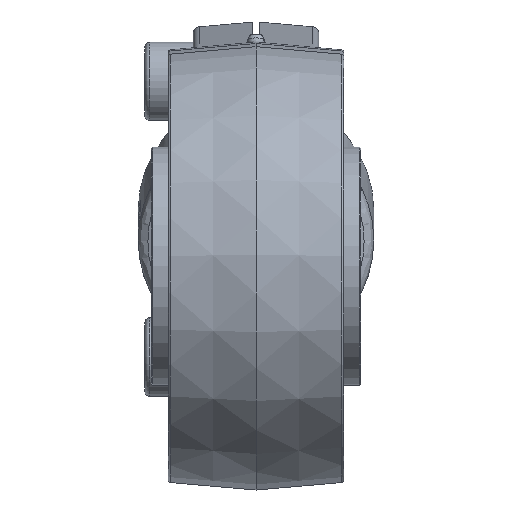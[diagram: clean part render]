
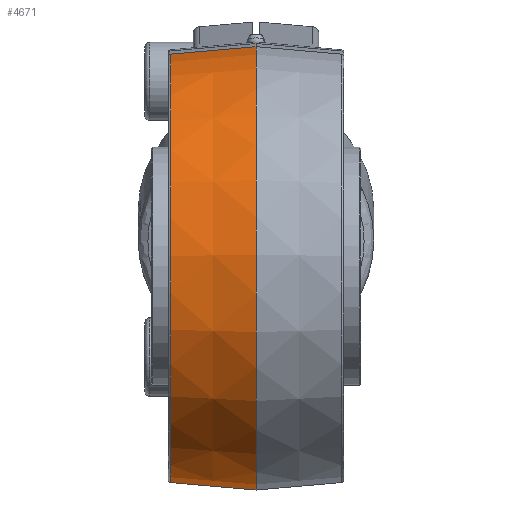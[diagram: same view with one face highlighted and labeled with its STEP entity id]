
A CAD part, front view. The second image highlights one B-rep face of the part: STEP entity #4671.
In plain terms, the highlighted conical face has half-angle 5 degrees and reference radius 85 mm.
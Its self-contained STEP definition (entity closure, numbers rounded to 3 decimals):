
#2077=CARTESIAN_POINT('',(85.0,5.,0.0));
#2078=VERTEX_POINT('',#2077);
#2087=CARTESIAN_POINT('',(82.149,5.,32.587));
#2088=VERTEX_POINT('',#2087);
#2089=CARTESIAN_POINT('',(85.0,5.,0.0));
#2090=DIRECTION('',(-0.087,0.0,0.996));
#2091=VECTOR('',#2090,32.712);
#2092=LINE('',#2089,#2091);
#2093=EDGE_CURVE('',#2078,#2088,#2092,.T.);
#4639=CARTESIAN_POINT('',(0.,5.,0.0));
#4640=DIRECTION('',(0.0,0.0,-1.0));
#4641=DIRECTION('',(-1.0,0.0,0.0));
#4642=AXIS2_PLACEMENT_3D('',#4639,#4640,#4641);
#4643=CONICAL_SURFACE('',#4642,85.0,5.);
#4644=CARTESIAN_POINT('',(-85.0,5.,0.0));
#4645=VERTEX_POINT('',#4644);
#4646=CARTESIAN_POINT('',(0.,5.,0.0));
#4647=DIRECTION('',(0.0,0.0,-1.0));
#4648=DIRECTION('',(-1.0,0.0,0.0));
#4649=AXIS2_PLACEMENT_3D('',#4646,#4647,#4648);
#4650=CIRCLE('',#4649,85.0);
#4651=EDGE_CURVE('',#4645,#2078,#4650,.T.);
#4652=ORIENTED_EDGE('',*,*,#4651,.F.);
#4653=CARTESIAN_POINT('',(-82.149,5.,32.587));
#4654=VERTEX_POINT('',#4653);
#4655=CARTESIAN_POINT('',(-85.0,5.,0.0));
#4656=DIRECTION('',(0.087,0.0,0.996));
#4657=VECTOR('',#4656,32.712);
#4658=LINE('',#4655,#4657);
#4659=EDGE_CURVE('',#4645,#4654,#4658,.T.);
#4660=ORIENTED_EDGE('',*,*,#4659,.T.);
#4661=CARTESIAN_POINT('',(0.,5.0,32.587));
#4662=DIRECTION('',(0.0,0.0,1.0));
#4663=DIRECTION('',(0.0,1.0,0.0));
#4664=AXIS2_PLACEMENT_3D('',#4661,#4662,#4663);
#4665=CIRCLE('',#4664,82.149);
#4666=EDGE_CURVE('',#2088,#4654,#4665,.T.);
#4667=ORIENTED_EDGE('',*,*,#4666,.F.);
#4668=ORIENTED_EDGE('',*,*,#2093,.F.);
#4669=EDGE_LOOP('',(#4652,#4660,#4667,#4668));
#4670=FACE_OUTER_BOUND('',#4669,.T.);
#4671=ADVANCED_FACE('',(#4670),#4643,.T.);
